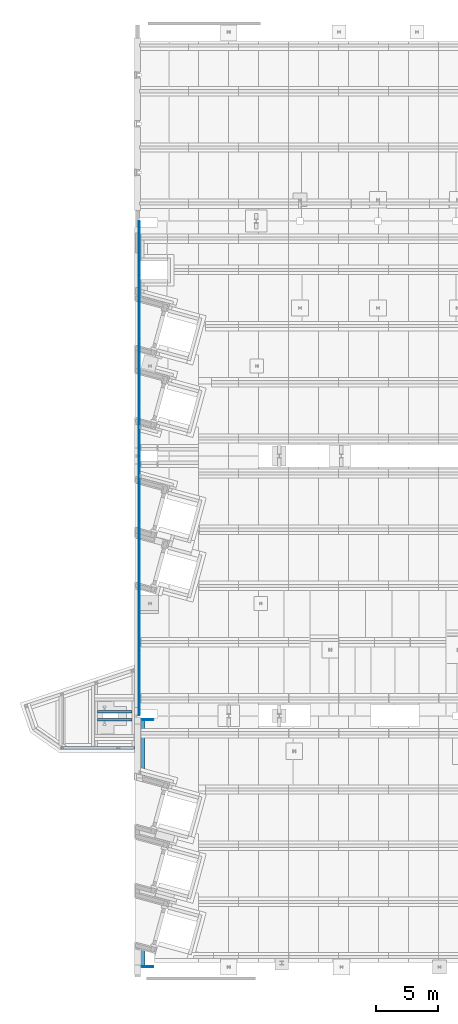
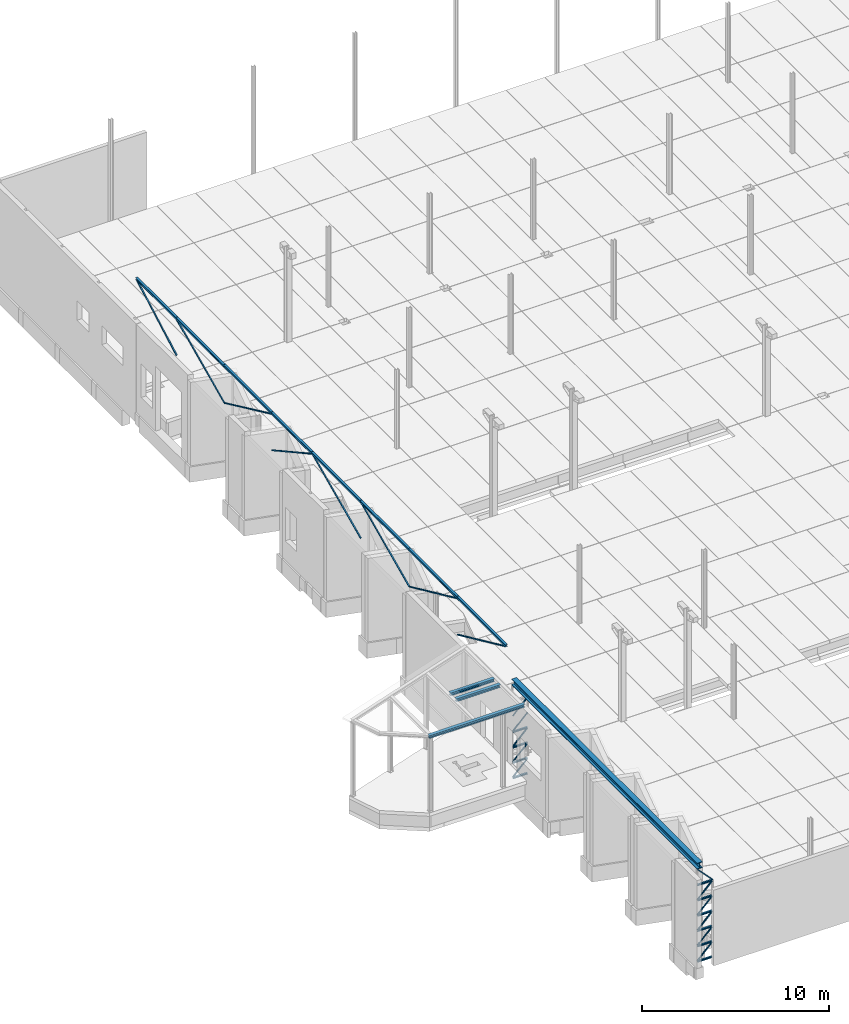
# One storey, part 45 of 59: 42 beams.
"""IFC2X3 building model written with IfcOpenShell, lengths in metres."""

from ifc_helpers import new_model, entity, si_unit, converted_unit, derived_unit, frame, origin, place, context, subcontext, project, spatial, polyline, outline, extrude, material, element, save


model = new_model("IFC2X3")

# Units and contexts
model_context = context("Model", 3, precision=1e-05, world=origin())
body_context = subcontext(model_context, "Body", "Model", "MODEL_VIEW")
ifc_project = project(units=[si_unit("LENGTHUNIT", "METRE"), si_unit("AREAUNIT", "SQUARE_METRE"), si_unit("VOLUMEUNIT", "CUBIC_METRE"), si_unit("MASSUNIT", "GRAM", prefix="KILO"), converted_unit("PLANEANGLEUNIT", "DEGREE", entity("IfcPlaneAngleMeasure", 0.0174532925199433), si_unit("PLANEANGLEUNIT", "RADIAN"), dimensions=[0, 0, 0, 0, 0, 0, 0]), derived_unit("THERMALTRANSMITTANCEUNIT", [(si_unit("POWERUNIT", "WATT"), 1), (si_unit("THERMODYNAMICTEMPERATUREUNIT", "KELVIN"), -1), (si_unit("LENGTHUNIT", "METRE"), -2)]), derived_unit("VOLUMETRICFLOWRATEUNIT", [(si_unit("LENGTHUNIT", "METRE"), 3), (converted_unit("TIMEUNIT", "hour", entity("IfcTimeMeasure", 3600.0), si_unit("TIMEUNIT", "SECOND"), dimensions=[0, 0, 1, 0, 0, 0, 0]), -1), (si_unit("LENGTHUNIT", "METRE"), -1)])], contexts=[model_context])

# Site, building, storey
site_placement = place(None, origin())
site = spatial("IfcSite", under=ifc_project, at=site_placement, Name="TWP_Speiseverteilzentrum SBW VZ II", CompositionType="ELEMENT")
building_placement = place(site_placement, origin())
building = spatial("IfcBuilding", under=site, at=building_placement, Name="Speiseverteilzentrum SBW VZ II", CompositionType="ELEMENT")
storey_placement = place(building_placement, frame((0.0, 0.0, 1.7307)))
storey = spatial("IfcBuildingStorey", under=building, at=storey_placement, Name="EG_Produktion_FFB", CompositionType="ELEMENT", Elevation=1.7307)

# Beams
ifc_material_1 = material(Name="S235")
beam_1_placement = place(storey_placement, frame((6.3083388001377, 30.3849999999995, 4.8188)))
element("IfcBeam", 1, at=beam_1_placement, inside=storey, material=ifc_material_1, Name="Nebenträger", ObjectType="BEAM", context=body_context, shape_type="SweptSolid", body=[
    extrude(outline(polyline([(0.19, 0.0), (0.19, 0.2), (0.18, 0.2), (0.18, 0.10325), (0.01, 0.10325), (0.01, 0.2), (0.0, 0.2), (0.0, 0.0), (0.01, 0.0), (0.01, 0.09675), (0.18, 0.09675), (0.18, 0.0), (0.19, 0.0)])), frame((0.0, 0.2, 0.0), z_axis=(1.0, 0.0, 0.0), x_axis=(0.0, 0.0, 1.0)), (0.0, 0.0, 1.0), 2.73266119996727),
])
ifc_material_2 = material(Name="S235")
beam_2_placement = place(storey_placement, frame((6.3083388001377, 31.0149999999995, 4.8188)))
element("IfcBeam", 2, at=beam_2_placement, inside=storey, material=ifc_material_2, Name="Nebenträger", ObjectType="BEAM", context=body_context, shape_type="SweptSolid", body=[
    extrude(outline(polyline([(0.19, 0.0), (0.19, 0.2), (0.18, 0.2), (0.18, 0.10325), (0.01, 0.10325), (0.01, 0.2), (0.0, 0.2), (0.0, 0.0), (0.01, 0.0), (0.01, 0.09675), (0.18, 0.09675), (0.18, 0.0), (0.19, 0.0)])), frame((0.0, 0.2, 0.0), z_axis=(1.0, 0.0, 0.0), x_axis=(0.0, 0.0, 1.0)), (0.0, 0.0, 1.0), 2.73266119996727),
])
ifc_material_3 = material(Name="S235")
beam_3_placement = place(storey_placement, frame((3.35570517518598, 28.1349999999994, 4.8188)))
element("IfcBeam", 3, at=beam_3_placement, inside=storey, material=ifc_material_3, Name="Rahmenriegel", ObjectType="BEAM", context=body_context, shape_type="SweptSolid", body=[
    extrude(outline(polyline([(0.19, 0.0), (0.19, 0.2), (0.18, 0.2), (0.18, 0.10325), (0.01, 0.10325), (0.01, 0.2), (0.0, 0.2), (0.0, 0.0), (0.01, 0.0), (0.01, 0.09675), (0.18, 0.09675), (0.18, 0.0), (0.19, 0.0)])), frame((0.0, 0.2, 0.0), z_axis=(1.0, 0.0, 0.0), x_axis=(0.0, 0.0, 1.0)), (0.0, 0.0, 1.0), 5.885294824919),
])
ifc_material_4 = material(Name="S235")
beam_4_placement = place(storey_placement, frame((9.96400000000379, 30.5350010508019, 4.8125), z_axis=(0.0, 0.0, 1.0), x_axis=(-1.0, 0.0, 0.0)))
element("IfcBeam", 4, at=beam_4_placement, inside=storey, material=ifc_material_4, Name="Stahlträger", context=body_context, shape_type="SweptSolid", body=[
    extrude(outline(polyline([(-0.154, 0.1975), (-0.154, 0.1575), (-0.0105, 0.1575), (-0.0105, -0.1575), (-0.154, -0.1575), (-0.154, -0.1975), (0.154, -0.1975), (0.154, -0.1575), (0.0105, -0.1575), (0.0105, 0.1575), (0.154, 0.1575), (0.154, 0.1975), (-0.154, 0.1975)])), frame((0.0, 0.0, 0.0), z_axis=(0.0, 1.0, 0.0), x_axis=(-1.0, 0.0, 0.0)), (0.0, 0.0, 1.0), 19.8770636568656),
])
ifc_material_5 = material(Name="S235")
beam_5_placement = place(storey_placement, frame((9.85000000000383, 30.4850010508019, -1.44), z_axis=(0.0, 0.0, 1.0), x_axis=(0.0, -1.0, 0.0)))
element("IfcBeam", 5, at=beam_5_placement, inside=storey, material=ifc_material_5, Name="Fachwerkstütze", context=body_context, shape_type="SweptSolid", body=[
    extrude(outline(polyline([(-0.05, 0.048), (-0.05, 0.04), (-0.0025, 0.04), (-0.00250000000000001, -0.0399999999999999), (-0.05, -0.0399999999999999), (-0.05, -0.048), (0.05, -0.048), (0.05, -0.0399999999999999), (0.00249999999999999, -0.0399999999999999), (0.0025, 0.04), (0.05, 0.04), (0.05, 0.048), (-0.05, 0.048)])), frame((0.0, 0.0, 0.0), z_axis=(0.0, 1.0, 0.0), x_axis=(-1.0, 0.0, 0.0)), (0.0, 0.0, 1.0), 0.9),
])
ifc_material_6 = material(Name="S235")
beam_6_placement = place(storey_placement, frame((9.85000000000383, 10.7079373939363, -1.44), z_axis=(0.0, 0.0, 1.0), x_axis=(0.0, -1.0, 0.0)))
element("IfcBeam", 6, at=beam_6_placement, inside=storey, material=ifc_material_6, Name="Fachwerkstütze", context=body_context, shape_type="SweptSolid", body=[
    extrude(outline(polyline([(-0.05, 0.048), (-0.05, 0.04), (-0.0025, 0.04), (-0.00250000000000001, -0.0399999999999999), (-0.05, -0.0399999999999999), (-0.05, -0.048), (0.05, -0.048), (0.05, -0.0399999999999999), (0.00249999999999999, -0.0399999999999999), (0.0025, 0.04), (0.05, 0.04), (0.05, 0.048), (-0.05, 0.048)])), frame((0.0, 0.0, 0.0), z_axis=(0.0, 1.0, 0.0), x_axis=(-1.0, 0.0, 0.0)), (0.0, 0.0, 1.0), 0.9),
])
ifc_material_7 = material(Name="S235")
beam_7_placement = place(storey_placement, frame((9.85755296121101, 30.4956589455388, -1.39951954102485), z_axis=(0.0, 0.0, 1.0), x_axis=(-8.0843973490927e-15, -1.0, 0.0)))
element("IfcBeam", 7, at=beam_7_placement, inside=storey, material=ifc_material_7, Name="Fachwerkstütze", context=body_context, shape_type="SweptSolid", body=[
    extrude(outline(polyline([(0.0143421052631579, 0.0356578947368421), (0.0093421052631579, 0.0356578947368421), (0.00934210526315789, -0.0093421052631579), (-0.0356578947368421, -0.00934210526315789), (-0.0356578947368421, -0.0143421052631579), (0.0143421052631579, -0.0143421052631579), (0.0143421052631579, 0.0356578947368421)])), frame((0.0, 0.0, 0.0), z_axis=(0.0, 0.705537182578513, 0.708672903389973), x_axis=(-1.0, 0.0, 0.0)), (0.0, 0.0, 1.0), 1.2756237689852),
])
ifc_material_8 = material(Name="S235")
beam_8_placement = place(storey_placement, frame((9.85755296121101, 10.7185952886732, -1.39951954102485), z_axis=(0.0, 0.0, 1.0), x_axis=(-8.0843973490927e-15, -1.0, 0.0)))
element("IfcBeam", 8, at=beam_8_placement, inside=storey, material=ifc_material_8, Name="Fachwerkstütze", context=body_context, shape_type="SweptSolid", body=[
    extrude(outline(polyline([(0.0143421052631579, 0.0356578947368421), (0.0093421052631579, 0.0356578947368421), (0.00934210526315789, -0.0093421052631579), (-0.0356578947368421, -0.00934210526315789), (-0.0356578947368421, -0.0143421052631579), (0.0143421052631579, -0.0143421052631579), (0.0143421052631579, 0.0356578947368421)])), frame((0.0, 0.0, 0.0), z_axis=(0.0, 0.705537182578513, 0.708672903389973), x_axis=(-1.0, 0.0, 0.0)), (0.0, 0.0, 1.0), 1.2756237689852),
])
ifc_material_9 = material(Name="S235")
beam_9_placement = place(storey_placement, frame((9.85000000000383, 30.4850010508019, -0.44), z_axis=(0.0, 0.0, 1.0), x_axis=(0.0, -1.0, 0.0)))
element("IfcBeam", 9, at=beam_9_placement, inside=storey, material=ifc_material_9, Name="Fachwerkstütze", context=body_context, shape_type="SweptSolid", body=[
    extrude(outline(polyline([(-0.05, 0.048), (-0.05, 0.04), (-0.0025, 0.04), (-0.00250000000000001, -0.0399999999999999), (-0.05, -0.0399999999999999), (-0.05, -0.048), (0.05, -0.048), (0.05, -0.0399999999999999), (0.00249999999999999, -0.0399999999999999), (0.0025, 0.04), (0.05, 0.04), (0.05, 0.048), (-0.05, 0.048)])), frame((0.0, 0.0, 0.0), z_axis=(0.0, 1.0, 0.0), x_axis=(-1.0, 0.0, 0.0)), (0.0, 0.0, 1.0), 0.9),
])
ifc_material_10 = material(Name="S235")
beam_10_placement = place(storey_placement, frame((9.85000000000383, 10.7079373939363, -0.44), z_axis=(0.0, 0.0, 1.0), x_axis=(0.0, -1.0, 0.0)))
element("IfcBeam", 10, at=beam_10_placement, inside=storey, material=ifc_material_10, Name="Fachwerkstütze", context=body_context, shape_type="SweptSolid", body=[
    extrude(outline(polyline([(-0.05, 0.048), (-0.05, 0.04), (-0.0025, 0.04), (-0.00250000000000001, -0.0399999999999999), (-0.05, -0.0399999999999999), (-0.05, -0.048), (0.05, -0.048), (0.05, -0.0399999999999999), (0.00249999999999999, -0.0399999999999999), (0.0025, 0.04), (0.05, 0.04), (0.05, 0.048), (-0.05, 0.048)])), frame((0.0, 0.0, 0.0), z_axis=(0.0, 1.0, 0.0), x_axis=(-1.0, 0.0, 0.0)), (0.0, 0.0, 1.0), 0.9),
])
ifc_material_11 = material(Name="S235")
beam_11_placement = place(storey_placement, frame((9.85755296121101, 30.4956589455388, -0.39951954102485), z_axis=(0.0, 0.0, 1.0), x_axis=(-8.0843973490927e-15, -1.0, 0.0)))
element("IfcBeam", 11, at=beam_11_placement, inside=storey, material=ifc_material_11, Name="Fachwerkstütze", context=body_context, shape_type="SweptSolid", body=[
    extrude(outline(polyline([(0.0143421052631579, 0.0356578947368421), (0.0093421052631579, 0.0356578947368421), (0.00934210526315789, -0.0093421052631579), (-0.0356578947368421, -0.00934210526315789), (-0.0356578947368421, -0.0143421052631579), (0.0143421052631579, -0.0143421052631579), (0.0143421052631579, 0.0356578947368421)])), frame((0.0, 0.0, 0.0), z_axis=(0.0, 0.705537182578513, 0.708672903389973), x_axis=(-1.0, 0.0, 0.0)), (0.0, 0.0, 1.0), 1.2756237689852),
])
ifc_material_12 = material(Name="S235")
beam_12_placement = place(storey_placement, frame((9.85755296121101, 10.7185952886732, -0.39951954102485), z_axis=(0.0, 0.0, 1.0), x_axis=(-8.0843973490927e-15, -1.0, 0.0)))
element("IfcBeam", 12, at=beam_12_placement, inside=storey, material=ifc_material_12, Name="Fachwerkstütze", context=body_context, shape_type="SweptSolid", body=[
    extrude(outline(polyline([(0.0143421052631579, 0.0356578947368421), (0.0093421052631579, 0.0356578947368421), (0.00934210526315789, -0.0093421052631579), (-0.0356578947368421, -0.00934210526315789), (-0.0356578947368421, -0.0143421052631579), (0.0143421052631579, -0.0143421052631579), (0.0143421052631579, 0.0356578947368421)])), frame((0.0, 0.0, 0.0), z_axis=(0.0, 0.705537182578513, 0.708672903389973), x_axis=(-1.0, 0.0, 0.0)), (0.0, 0.0, 1.0), 1.2756237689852),
])
ifc_material_13 = material(Name="S235")
beam_13_placement = place(storey_placement, frame((9.85000000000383, 30.4850010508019, 0.56), z_axis=(0.0, 0.0, 1.0), x_axis=(0.0, -1.0, 0.0)))
element("IfcBeam", 13, at=beam_13_placement, inside=storey, material=ifc_material_13, Name="Fachwerkstütze", context=body_context, shape_type="SweptSolid", body=[
    extrude(outline(polyline([(-0.05, 0.048), (-0.05, 0.04), (-0.0025, 0.04), (-0.00250000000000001, -0.0399999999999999), (-0.05, -0.0399999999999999), (-0.05, -0.048), (0.05, -0.048), (0.05, -0.0399999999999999), (0.00249999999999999, -0.0399999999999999), (0.0025, 0.04), (0.05, 0.04), (0.05, 0.048), (-0.05, 0.048)])), frame((0.0, 0.0, 0.0), z_axis=(0.0, 1.0, 0.0), x_axis=(-1.0, 0.0, 0.0)), (0.0, 0.0, 1.0), 0.9),
])
ifc_material_14 = material(Name="S235")
beam_14_placement = place(storey_placement, frame((9.85000000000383, 10.7079373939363, 0.56), z_axis=(0.0, 0.0, 1.0), x_axis=(0.0, -1.0, 0.0)))
element("IfcBeam", 14, at=beam_14_placement, inside=storey, material=ifc_material_14, Name="Fachwerkstütze", context=body_context, shape_type="SweptSolid", body=[
    extrude(outline(polyline([(-0.05, 0.048), (-0.05, 0.04), (-0.0025, 0.04), (-0.00250000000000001, -0.0399999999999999), (-0.05, -0.0399999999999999), (-0.05, -0.048), (0.05, -0.048), (0.05, -0.0399999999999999), (0.00249999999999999, -0.0399999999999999), (0.0025, 0.04), (0.05, 0.04), (0.05, 0.048), (-0.05, 0.048)])), frame((0.0, 0.0, 0.0), z_axis=(0.0, 1.0, 0.0), x_axis=(-1.0, 0.0, 0.0)), (0.0, 0.0, 1.0), 0.9),
])
ifc_material_15 = material(Name="S235")
beam_15_placement = place(storey_placement, frame((9.85755296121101, 30.4956589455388, 0.60048045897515), z_axis=(0.0, 0.0, 1.0), x_axis=(-8.0843973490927e-15, -1.0, 0.0)))
element("IfcBeam", 15, at=beam_15_placement, inside=storey, material=ifc_material_15, Name="Fachwerkstütze", context=body_context, shape_type="SweptSolid", body=[
    extrude(outline(polyline([(0.0143421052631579, 0.0356578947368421), (0.0093421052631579, 0.0356578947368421), (0.00934210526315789, -0.0093421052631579), (-0.0356578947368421, -0.00934210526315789), (-0.0356578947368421, -0.0143421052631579), (0.0143421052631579, -0.0143421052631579), (0.0143421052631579, 0.0356578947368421)])), frame((0.0, 0.0, 0.0), z_axis=(0.0, 0.705537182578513, 0.708672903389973), x_axis=(-1.0, 0.0, 0.0)), (0.0, 0.0, 1.0), 1.2756237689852),
])
ifc_material_16 = material(Name="S235")
beam_16_placement = place(storey_placement, frame((9.85755296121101, 10.7185952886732, 0.60048045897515), z_axis=(0.0, 0.0, 1.0), x_axis=(-8.0843973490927e-15, -1.0, 0.0)))
element("IfcBeam", 16, at=beam_16_placement, inside=storey, material=ifc_material_16, Name="Fachwerkstütze", context=body_context, shape_type="SweptSolid", body=[
    extrude(outline(polyline([(0.0143421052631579, 0.0356578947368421), (0.0093421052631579, 0.0356578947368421), (0.00934210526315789, -0.0093421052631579), (-0.0356578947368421, -0.00934210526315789), (-0.0356578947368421, -0.0143421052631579), (0.0143421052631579, -0.0143421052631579), (0.0143421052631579, 0.0356578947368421)])), frame((0.0, 0.0, 0.0), z_axis=(0.0, 0.705537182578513, 0.708672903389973), x_axis=(-1.0, 0.0, 0.0)), (0.0, 0.0, 1.0), 1.2756237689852),
])
ifc_material_17 = material(Name="S235")
beam_17_placement = place(storey_placement, frame((9.85000000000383, 30.4850010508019, 1.56), z_axis=(0.0, 0.0, 1.0), x_axis=(0.0, -1.0, 0.0)))
element("IfcBeam", 17, at=beam_17_placement, inside=storey, material=ifc_material_17, Name="Fachwerkstütze", context=body_context, shape_type="SweptSolid", body=[
    extrude(outline(polyline([(-0.05, 0.048), (-0.05, 0.04), (-0.0025, 0.04), (-0.00250000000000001, -0.0399999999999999), (-0.05, -0.0399999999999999), (-0.05, -0.048), (0.05, -0.048), (0.05, -0.0399999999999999), (0.00249999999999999, -0.0399999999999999), (0.0025, 0.04), (0.05, 0.04), (0.05, 0.048), (-0.05, 0.048)])), frame((0.0, 0.0, 0.0), z_axis=(0.0, 1.0, 0.0), x_axis=(-1.0, 0.0, 0.0)), (0.0, 0.0, 1.0), 0.9),
])
ifc_material_18 = material(Name="S235")
beam_18_placement = place(storey_placement, frame((9.85000000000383, 10.7079373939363, 1.56), z_axis=(0.0, 0.0, 1.0), x_axis=(0.0, -1.0, 0.0)))
element("IfcBeam", 18, at=beam_18_placement, inside=storey, material=ifc_material_18, Name="Fachwerkstütze", context=body_context, shape_type="SweptSolid", body=[
    extrude(outline(polyline([(-0.05, 0.048), (-0.05, 0.04), (-0.0025, 0.04), (-0.00250000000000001, -0.0399999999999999), (-0.05, -0.0399999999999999), (-0.05, -0.048), (0.05, -0.048), (0.05, -0.0399999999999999), (0.00249999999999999, -0.0399999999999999), (0.0025, 0.04), (0.05, 0.04), (0.05, 0.048), (-0.05, 0.048)])), frame((0.0, 0.0, 0.0), z_axis=(0.0, 1.0, 0.0), x_axis=(-1.0, 0.0, 0.0)), (0.0, 0.0, 1.0), 0.9),
])
ifc_material_19 = material(Name="S235")
beam_19_placement = place(storey_placement, frame((9.85755296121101, 30.4956589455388, 1.60048045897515), z_axis=(0.0, 0.0, 1.0), x_axis=(-8.0843973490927e-15, -1.0, 0.0)))
element("IfcBeam", 19, at=beam_19_placement, inside=storey, material=ifc_material_19, Name="Fachwerkstütze", context=body_context, shape_type="SweptSolid", body=[
    extrude(outline(polyline([(0.0143421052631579, 0.0356578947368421), (0.0093421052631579, 0.0356578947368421), (0.00934210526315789, -0.0093421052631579), (-0.0356578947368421, -0.00934210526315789), (-0.0356578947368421, -0.0143421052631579), (0.0143421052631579, -0.0143421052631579), (0.0143421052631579, 0.0356578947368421)])), frame((0.0, 0.0, 0.0), z_axis=(0.0, 0.705537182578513, 0.708672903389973), x_axis=(-1.0, 0.0, 0.0)), (0.0, 0.0, 1.0), 1.2756237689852),
])
ifc_material_20 = material(Name="S235")
beam_20_placement = place(storey_placement, frame((9.85755296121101, 10.7185952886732, 1.60048045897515), z_axis=(0.0, 0.0, 1.0), x_axis=(-8.0843973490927e-15, -1.0, 0.0)))
element("IfcBeam", 20, at=beam_20_placement, inside=storey, material=ifc_material_20, Name="Fachwerkstütze", context=body_context, shape_type="SweptSolid", body=[
    extrude(outline(polyline([(0.0143421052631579, 0.0356578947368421), (0.0093421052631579, 0.0356578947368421), (0.00934210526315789, -0.0093421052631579), (-0.0356578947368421, -0.00934210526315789), (-0.0356578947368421, -0.0143421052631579), (0.0143421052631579, -0.0143421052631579), (0.0143421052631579, 0.0356578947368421)])), frame((0.0, 0.0, 0.0), z_axis=(0.0, 0.705537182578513, 0.708672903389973), x_axis=(-1.0, 0.0, 0.0)), (0.0, 0.0, 1.0), 1.2756237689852),
])
ifc_material_21 = material(Name="S235")
beam_21_placement = place(storey_placement, frame((9.85000000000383, 10.7079373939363, 2.56), z_axis=(0.0, 0.0, 1.0), x_axis=(0.0, -1.0, 0.0)))
element("IfcBeam", 21, at=beam_21_placement, inside=storey, material=ifc_material_21, Name="Fachwerkstütze", context=body_context, shape_type="SweptSolid", body=[
    extrude(outline(polyline([(-0.05, 0.048), (-0.05, 0.04), (-0.0025, 0.04), (-0.00250000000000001, -0.0399999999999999), (-0.05, -0.0399999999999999), (-0.05, -0.048), (0.05, -0.048), (0.05, -0.0399999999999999), (0.00249999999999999, -0.0399999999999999), (0.0025, 0.04), (0.05, 0.04), (0.05, 0.048), (-0.05, 0.048)])), frame((0.0, 0.0, 0.0), z_axis=(0.0, 1.0, 0.0), x_axis=(-1.0, 0.0, 0.0)), (0.0, 0.0, 1.0), 0.9),
])
ifc_material_22 = material(Name="S235")
beam_22_placement = place(storey_placement, frame((9.85755296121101, 30.4956589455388, 2.60048045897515), z_axis=(0.0, 0.0, 1.0), x_axis=(-8.0843973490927e-15, -1.0, 0.0)))
element("IfcBeam", 22, at=beam_22_placement, inside=storey, material=ifc_material_22, Name="Fachwerkstütze", context=body_context, shape_type="SweptSolid", body=[
    extrude(outline(polyline([(0.0143421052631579, 0.0356578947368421), (0.0093421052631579, 0.0356578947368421), (0.00934210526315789, -0.0093421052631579), (-0.0356578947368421, -0.00934210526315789), (-0.0356578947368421, -0.0143421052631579), (0.0143421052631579, -0.0143421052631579), (0.0143421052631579, 0.0356578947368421)])), frame((0.0, 0.0, 0.0), z_axis=(0.0, 0.705537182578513, 0.708672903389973), x_axis=(-1.0, 0.0, 0.0)), (0.0, 0.0, 1.0), 1.2756237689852),
])
ifc_material_23 = material(Name="S235")
beam_23_placement = place(storey_placement, frame((9.85755296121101, 10.7185952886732, 2.60048045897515), z_axis=(0.0, 0.0, 1.0), x_axis=(-8.0843973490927e-15, -1.0, 0.0)))
element("IfcBeam", 23, at=beam_23_placement, inside=storey, material=ifc_material_23, Name="Fachwerkstütze", context=body_context, shape_type="SweptSolid", body=[
    extrude(outline(polyline([(0.0143421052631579, 0.0356578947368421), (0.0093421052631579, 0.0356578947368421), (0.00934210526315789, -0.0093421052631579), (-0.0356578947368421, -0.00934210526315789), (-0.0356578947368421, -0.0143421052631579), (0.0143421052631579, -0.0143421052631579), (0.0143421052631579, 0.0356578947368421)])), frame((0.0, 0.0, 0.0), z_axis=(0.0, 0.705537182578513, 0.708672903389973), x_axis=(-1.0, 0.0, 0.0)), (0.0, 0.0, 1.0), 1.2756237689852),
])
ifc_material_24 = material(Name="S235")
beam_24_placement = place(storey_placement, frame((9.85000000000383, 10.7079373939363, 3.56), z_axis=(0.0, 0.0, 1.0), x_axis=(0.0, -1.0, 0.0)))
element("IfcBeam", 24, at=beam_24_placement, inside=storey, material=ifc_material_24, Name="Fachwerkstütze", context=body_context, shape_type="SweptSolid", body=[
    extrude(outline(polyline([(-0.05, 0.048), (-0.05, 0.04), (-0.0025, 0.04), (-0.00250000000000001, -0.0399999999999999), (-0.05, -0.0399999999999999), (-0.05, -0.048), (0.05, -0.048), (0.05, -0.0399999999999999), (0.00249999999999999, -0.0399999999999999), (0.0025, 0.04), (0.05, 0.04), (0.05, 0.048), (-0.05, 0.048)])), frame((0.0, 0.0, 0.0), z_axis=(0.0, 1.0, 0.0), x_axis=(-1.0, 0.0, 0.0)), (0.0, 0.0, 1.0), 0.9),
])
ifc_material_25 = material(Name="S235")
beam_25_placement = place(storey_placement, frame((9.83805914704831, 30.4850010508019, 4.59700942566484), z_axis=(0.0, 0.0, 1.0), x_axis=(-7.65890275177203e-15, -1.0, 0.0)))
element("IfcBeam", 25, at=beam_25_placement, inside=storey, material=ifc_material_25, Name="Fachwerkstütze", context=body_context, shape_type="SweptSolid", body=[
    extrude(outline(polyline([(-0.0399799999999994, 0.00983930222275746), (0.0399800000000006, 0.00983930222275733), (0.0435000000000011, -0.0341606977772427), (0.0500000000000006, -0.0341606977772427), (0.0500000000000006, 0.0158393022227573), (-0.0499999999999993, 0.0158393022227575), (-0.0499999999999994, -0.0341606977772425), (-0.0434999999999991, -0.0341606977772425), (-0.0399799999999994, 0.00983930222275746)])), frame((0.0, 0.0, 0.0), z_axis=(0.0, 0.688749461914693, -0.724999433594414), x_axis=(-1.0, 0.0, 0.0)), (0.0, 0.0, 1.0), 1.37931142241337),
])
ifc_material_26 = material(Name="S235")
beam_26_placement = place(storey_placement, frame((9.83805914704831, 10.7079373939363, 4.59700942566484), z_axis=(0.0, 0.0, 1.0), x_axis=(-7.65890275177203e-15, -1.0, 0.0)))
element("IfcBeam", 26, at=beam_26_placement, inside=storey, material=ifc_material_26, Name="Fachwerkstütze", context=body_context, shape_type="SweptSolid", body=[
    extrude(outline(polyline([(-0.0399799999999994, 0.00983930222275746), (0.0399800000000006, 0.00983930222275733), (0.0435000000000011, -0.0341606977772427), (0.0500000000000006, -0.0341606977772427), (0.0500000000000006, 0.0158393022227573), (-0.0499999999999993, 0.0158393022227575), (-0.0499999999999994, -0.0341606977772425), (-0.0434999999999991, -0.0341606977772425), (-0.0399799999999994, 0.00983930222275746)])), frame((0.0, 0.0, 0.0), z_axis=(0.0, 0.688749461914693, -0.724999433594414), x_axis=(-1.0, 0.0, 0.0)), (0.0, 0.0, 1.0), 1.37931142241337),
])
ifc_material_27 = material(Name="S235")
beam_27_placement = place(storey_placement, frame((9.64288730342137, 36.0192473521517, 7.0858), z_axis=(0.0, 0.0, 1.0), x_axis=(-1.0, 0.0, 0.0)))
element("IfcBeam", 27, at=beam_27_placement, inside=storey, material=ifc_material_27, Name="Obergurt", context=body_context, shape_type="SweptSolid", body=[
    extrude(outline(polyline([(-0.0700000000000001, 0.0665), (-0.0700000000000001, 0.058), (-0.00275000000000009, 0.058), (-0.00275000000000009, -0.058), (-0.0700000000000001, -0.058), (-0.0700000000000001, -0.0665), (0.0699999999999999, -0.0665), (0.0699999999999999, -0.058), (0.00274999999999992, -0.058), (0.00274999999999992, 0.058), (0.0699999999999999, 0.058), (0.0699999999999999, 0.0665), (-0.0700000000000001, 0.0665)])), frame((0.0, 0.0, 0.0), z_axis=(0.0, 1.0, 0.0), x_axis=(-1.0, 0.0, 0.0)), (0.0, 0.0, 1.0), 5.21159357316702),
])
ifc_material_28 = material(Name="S235")
beam_28_placement = place(storey_placement, frame((9.64288730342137, 41.1938946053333, 7.0858), z_axis=(0.0, 0.0, 1.0), x_axis=(-1.0, 0.0, 0.0)))
element("IfcBeam", 28, at=beam_28_placement, inside=storey, material=ifc_material_28, Name="Obergurt", context=body_context, shape_type="SweptSolid", body=[
    extrude(outline(polyline([(-0.0700000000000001, 0.0665), (-0.0700000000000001, 0.058), (-0.00275000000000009, 0.058), (-0.00275000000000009, -0.058), (-0.0700000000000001, -0.058), (-0.0700000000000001, -0.0665), (0.0699999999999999, -0.0665), (0.0699999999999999, -0.058), (0.00274999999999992, -0.058), (0.00274999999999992, 0.058), (0.0699999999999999, 0.058), (0.0699999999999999, 0.0665), (-0.0700000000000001, 0.0665)])), frame((0.0, 0.0, 0.0), z_axis=(0.0, 1.0, 0.0), x_axis=(-1.0, 0.0, 0.0)), (0.0, 0.0, 1.0), 5.16314287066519),
])
ifc_material_29 = material(Name="S235")
beam_29_placement = place(storey_placement, frame((9.64288730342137, 46.3692473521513, 7.0858), z_axis=(0.0, 0.0, 1.0), x_axis=(-1.0, 0.0, 0.0)))
element("IfcBeam", 29, at=beam_29_placement, inside=storey, material=ifc_material_29, Name="Obergurt", context=body_context, shape_type="SweptSolid", body=[
    extrude(outline(polyline([(-0.0700000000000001, 0.0665), (-0.0700000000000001, 0.058), (-0.00275000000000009, 0.058), (-0.00275000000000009, -0.058), (-0.0700000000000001, -0.058), (-0.0700000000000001, -0.0665), (0.0699999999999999, -0.0665), (0.0699999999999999, -0.058), (0.00274999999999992, -0.058), (0.00274999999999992, 0.058), (0.0699999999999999, 0.058), (0.0699999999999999, 0.0665), (-0.0700000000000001, 0.0665)])), frame((0.0, 0.0, 0.0), z_axis=(0.0, 1.0, 0.0), x_axis=(-1.0, 0.0, 0.0)), (0.0, 0.0, 1.0), 5.16314287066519),
])
ifc_material_30 = material(Name="S235")
beam_30_placement = place(storey_placement, frame((9.64288730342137, 51.5968513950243, 7.0858), z_axis=(0.0, 0.0, 1.0), x_axis=(-1.0, 0.0, 0.0)))
element("IfcBeam", 30, at=beam_30_placement, inside=storey, material=ifc_material_30, Name="Obergurt", context=body_context, shape_type="SweptSolid", body=[
    extrude(outline(polyline([(-0.0700000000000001, 0.0665), (-0.0700000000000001, 0.058), (-0.00275000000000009, 0.058), (-0.00275000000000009, -0.058), (-0.0700000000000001, -0.058), (-0.0700000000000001, -0.0665), (0.0699999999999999, -0.0665), (0.0699999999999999, -0.058), (0.00274999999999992, -0.058), (0.00274999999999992, 0.058), (0.0699999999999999, 0.058), (0.0699999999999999, 0.0665), (-0.0700000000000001, 0.0665)])), frame((0.0, 0.0, 0.0), z_axis=(0.0, 1.0, 0.0), x_axis=(-1.0, 0.0, 0.0)), (0.0, 0.0, 1.0), 5.21610015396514),
])
ifc_material_31 = material(Name="S235")
beam_31_placement = place(storey_placement, frame((9.64288730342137, 55.894249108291, 7.0858), z_axis=(0.0, 0.0, 1.0), x_axis=(-1.0, 0.0, 0.0)))
element("IfcBeam", 31, at=beam_31_placement, inside=storey, material=ifc_material_31, Name="Obergurt", context=body_context, shape_type="SweptSolid", body=[
    extrude(outline(polyline([(-0.0700000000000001, 0.0665), (-0.0700000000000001, 0.058), (-0.00275000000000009, 0.058), (-0.00275000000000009, -0.058), (-0.0700000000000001, -0.058), (-0.0700000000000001, -0.0665), (0.0699999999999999, -0.0665), (0.0699999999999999, -0.058), (0.00274999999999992, -0.058), (0.00274999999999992, 0.058), (0.0699999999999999, 0.058), (0.0699999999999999, 0.0665), (-0.0700000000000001, 0.0665)])), frame((0.0, 0.0, 0.0), z_axis=(0.0, 1.0, 0.0), x_axis=(-1.0, 0.0, 0.0)), (0.0, 0.0, 1.0), 4.28659486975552),
])
ifc_material_32 = material(Name="S235")
beam_32_placement = place(storey_placement, frame((9.64288730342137, 60.9938970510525, 7.0858), z_axis=(0.0, 0.0, 1.0), x_axis=(-1.0, 0.0, 0.0)))
element("IfcBeam", 32, at=beam_32_placement, inside=storey, material=ifc_material_32, Name="Obergurt", context=body_context, shape_type="SweptSolid", body=[
    extrude(outline(polyline([(-0.0700000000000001, 0.0665), (-0.0700000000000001, 0.058), (-0.00275000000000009, 0.058), (-0.00275000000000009, -0.058), (-0.0700000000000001, -0.058), (-0.0700000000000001, -0.0665), (0.0699999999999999, -0.0665), (0.0699999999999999, -0.058), (0.00274999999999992, -0.058), (0.00274999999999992, 0.058), (0.0699999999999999, 0.058), (0.0699999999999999, 0.0665), (-0.0700000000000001, 0.0665)])), frame((0.0, 0.0, 0.0), z_axis=(0.0, 1.0, 0.0), x_axis=(-1.0, 0.0, 0.0)), (0.0, 0.0, 1.0), 5.08814543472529),
])
ifc_material_33 = material(Name="S235")
beam_33_placement = place(storey_placement, frame((9.64288730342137, 66.0942491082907, 7.0858), z_axis=(0.0, 0.0, 1.0), x_axis=(-1.0, 0.0, 0.0)))
element("IfcBeam", 33, at=beam_33_placement, inside=storey, material=ifc_material_33, Name="Obergurt", context=body_context, shape_type="SweptSolid", body=[
    extrude(outline(polyline([(-0.0700000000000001, 0.0665), (-0.0700000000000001, 0.058), (-0.00275000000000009, 0.058), (-0.00275000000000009, -0.058), (-0.0700000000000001, -0.058), (-0.0700000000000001, -0.0665), (0.0699999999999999, -0.0665), (0.0699999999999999, -0.058), (0.00274999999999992, -0.058), (0.00274999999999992, 0.058), (0.0699999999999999, 0.058), (0.0699999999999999, 0.0665), (-0.0700000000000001, 0.0665)])), frame((0.0, 0.0, 0.0), z_axis=(0.0, 1.0, 0.0), x_axis=(-1.0, 0.0, 0.0)), (0.0, 0.0, 1.0), 5.08814637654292),
])
ifc_material_34 = material(Name="S235")
beam_34_placement = place(storey_placement, frame((9.64288730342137, 70.3968514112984, 7.0858), z_axis=(0.0, 0.0, 1.0), x_axis=(-1.0, 0.0, 0.0)))
element("IfcBeam", 34, at=beam_34_placement, inside=storey, material=ifc_material_34, Name="Obergurt", context=body_context, shape_type="SweptSolid", body=[
    extrude(outline(polyline([(-0.0700000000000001, 0.0665), (-0.0700000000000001, 0.058), (-0.00275000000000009, 0.058), (-0.00275000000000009, -0.058), (-0.0700000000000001, -0.058), (-0.0700000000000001, -0.0665), (0.0699999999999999, -0.0665), (0.0699999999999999, -0.058), (0.00274999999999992, -0.058), (0.00274999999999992, 0.058), (0.0699999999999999, 0.058), (0.0699999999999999, 0.0665), (-0.0700000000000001, 0.0665)])), frame((0.0, 0.0, 0.0), z_axis=(0.0, 1.0, 0.0), x_axis=(-1.0, 0.0, 0.0)), (0.0, 0.0, 1.0), 4.29109979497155),
])
ifc_material_35 = material(Name="S235")
beam_35_placement = place(storey_placement, frame((9.62983943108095, 66.1149291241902, 4.65901729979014)))
element("IfcBeam", 35, at=beam_35_placement, inside=storey, material=ifc_material_35, Name="Diagonale", context=body_context, shape_type="SweptSolid", body=[
    extrude(outline(polyline([(0.0147021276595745, 0.0147021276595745), (-0.0352978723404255, 0.0147021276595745), (-0.0352978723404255, 0.00870212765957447), (0.00870212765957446, 0.00870212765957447), (0.00870212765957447, -0.0352978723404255), (0.0147021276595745, -0.0352978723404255), (0.0147021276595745, 0.0147021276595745)])), frame((0.0, 0.0, 0.0), z_axis=(0.0, 0.875646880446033, 0.482951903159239), x_axis=(-1.0, 0.0, 0.0)), (0.0, 0.0, 1.0), 4.8659089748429),
])
ifc_material_36 = material(Name="S235")
beam_36_placement = place(storey_placement, frame((9.62983943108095, 61.0185641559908, 4.6593394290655)))
element("IfcBeam", 36, at=beam_36_placement, inside=storey, material=ifc_material_36, Name="Diagonale", context=body_context, shape_type="SweptSolid", body=[
    extrude(outline(polyline([(0.0147021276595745, 0.0147021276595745), (-0.0352978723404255, 0.0147021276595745), (-0.0352978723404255, 0.00870212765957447), (0.00870212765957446, 0.00870212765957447), (0.00870212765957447, -0.0352978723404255), (0.0147021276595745, -0.0352978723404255), (0.0147021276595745, 0.0147021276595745)])), frame((0.0, 0.0, 0.0), z_axis=(0.0, 0.906928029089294, 0.421285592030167), x_axis=(-1.0, 0.0, 0.0)), (0.0, 0.0, 1.0), 5.57816370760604),
])
ifc_material_37 = material(Name="S235")
beam_37_placement = place(storey_placement, frame((9.62983943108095, 60.9814358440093, 4.6593394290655), z_axis=(0.0, 0.0, 1.0), x_axis=(-1.0, 0.0, 0.0)))
element("IfcBeam", 37, at=beam_37_placement, inside=storey, material=ifc_material_37, Name="Diagonale", context=body_context, shape_type="SweptSolid", body=[
    extrude(outline(polyline([(-0.0147021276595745, -0.0352978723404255), (-0.00870212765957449, -0.0352978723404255), (-0.00870212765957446, 0.00870212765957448), (0.0352978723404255, 0.00870212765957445), (0.0352978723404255, 0.0147021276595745), (-0.0147021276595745, 0.0147021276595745), (-0.0147021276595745, -0.0352978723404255)])), frame((0.0, 0.0, 0.0), z_axis=(0.0, 0.906928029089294, 0.421285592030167), x_axis=(-1.0, 0.0, 0.0)), (0.0, 0.0, 1.0), 5.57816370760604),
])
ifc_material_38 = material(Name="S235")
beam_38_placement = place(storey_placement, frame((9.62983943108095, 55.8850744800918, 4.65901531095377), z_axis=(0.0, 0.0, 1.0), x_axis=(-1.0, 0.0, 0.0)))
element("IfcBeam", 38, at=beam_38_placement, inside=storey, material=ifc_material_38, Name="Diagonale", context=body_context, shape_type="SweptSolid", body=[
    extrude(outline(polyline([(-0.0147021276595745, -0.0352978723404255), (-0.00870212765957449, -0.0352978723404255), (-0.00870212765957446, 0.00870212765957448), (0.0352978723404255, 0.00870212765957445), (0.0352978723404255, 0.0147021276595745), (-0.0147021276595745, 0.0147021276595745), (-0.0147021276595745, -0.0352978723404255)])), frame((0.0, 0.0, 0.0), z_axis=(0.0, 0.875453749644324, 0.483301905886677), x_axis=(-1.0, 0.0, 0.0)), (0.0, 0.0, 1.0), 4.86238512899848),
])
ifc_material_39 = material(Name="S235")
beam_39_placement = place(storey_placement, frame((9.62983943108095, 46.3906199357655, 4.65936513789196)))
element("IfcBeam", 39, at=beam_39_placement, inside=storey, material=ifc_material_39, Name="Diagonale", context=body_context, shape_type="SweptSolid", body=[
    extrude(outline(polyline([(0.0147021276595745, 0.0147021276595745), (-0.0352978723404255, 0.0147021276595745), (-0.0352978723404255, 0.00870212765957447), (0.00870212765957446, 0.00870212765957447), (0.00870212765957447, -0.0352978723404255), (0.0147021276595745, -0.0352978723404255), (0.0147021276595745, 0.0147021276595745)])), frame((0.0, 0.0, 0.0), z_axis=(0.0, 0.90942454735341, 0.415868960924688), x_axis=(-1.0, 0.0, 0.0)), (0.0, 0.0, 1.0), 5.65081845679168),
])
ifc_material_40 = material(Name="S235")
beam_40_placement = place(storey_placement, frame((9.62983943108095, 41.2186199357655, 4.65936513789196)))
element("IfcBeam", 40, at=beam_40_placement, inside=storey, material=ifc_material_40, Name="Diagonale", context=body_context, shape_type="SweptSolid", body=[
    extrude(outline(polyline([(0.0147021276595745, 0.0147021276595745), (-0.0352978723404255, 0.0147021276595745), (-0.0352978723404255, 0.00870212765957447), (0.00870212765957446, 0.00870212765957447), (0.00870212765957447, -0.0352978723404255), (0.0147021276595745, -0.0352978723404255), (0.0147021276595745, 0.0147021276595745)])), frame((0.0, 0.0, 0.0), z_axis=(0.0, 0.90942454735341, 0.415868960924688), x_axis=(-1.0, 0.0, 0.0)), (0.0, 0.0, 1.0), 5.65081845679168),
])
ifc_material_41 = material(Name="S235")
beam_41_placement = place(storey_placement, frame((9.62983943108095, 41.1813800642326, 4.65936513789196), z_axis=(0.0, 0.0, 1.0), x_axis=(-1.0, 0.0, 0.0)))
element("IfcBeam", 41, at=beam_41_placement, inside=storey, material=ifc_material_41, Name="Diagonale", context=body_context, shape_type="SweptSolid", body=[
    extrude(outline(polyline([(-0.0147021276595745, -0.0352978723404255), (-0.00870212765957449, -0.0352978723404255), (-0.00870212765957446, 0.00870212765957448), (0.0352978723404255, 0.00870212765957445), (0.0352978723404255, 0.0147021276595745), (-0.0147021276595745, 0.0147021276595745), (-0.0147021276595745, -0.0352978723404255)])), frame((0.0, 0.0, 0.0), z_axis=(0.0, 0.909424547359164, 0.415868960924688), x_axis=(-1.0, 0.0, 0.0)), (0.0, 0.0, 1.0), 5.65081845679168),
])
ifc_material_42 = material(Name="S235")
beam_42_placement = place(storey_placement, frame((9.62983943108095, 36.009380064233, 4.65936513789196), z_axis=(0.0, 0.0, 1.0), x_axis=(-1.0, 0.0, 0.0)))
element("IfcBeam", 42, at=beam_42_placement, inside=storey, material=ifc_material_42, Name="Diagonale", context=body_context, shape_type="SweptSolid", body=[
    extrude(outline(polyline([(-0.0147021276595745, -0.0352978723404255), (-0.00870212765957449, -0.0352978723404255), (-0.00870212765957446, 0.00870212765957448), (0.0352978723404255, 0.00870212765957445), (0.0352978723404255, 0.0147021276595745), (-0.0147021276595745, 0.0147021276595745), (-0.0147021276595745, -0.0352978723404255)])), frame((0.0, 0.0, 0.0), z_axis=(0.0, 0.909424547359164, 0.415868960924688), x_axis=(-1.0, 0.0, 0.0)), (0.0, 0.0, 1.0), 5.65081845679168),
])

save(model, "model.ifc")
